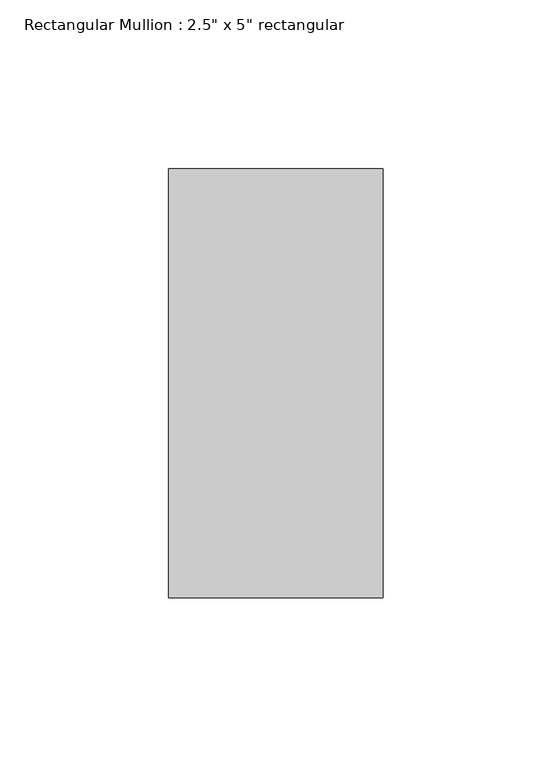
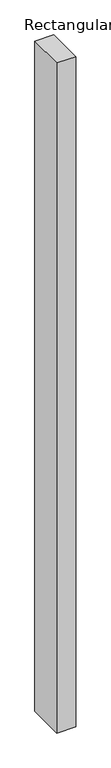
"""IFC4 building model written with IfcOpenShell, lengths in millimetres: member geometry."""

from ifc_helpers import new_model, si_unit, frame, origin, place, context, project, spatial, polyline, outline, extrude, source, transform, mapped, element, save


def member_e08b85bd(model_context):
    return source(origin(), model_context, "Body", "SweptSolid", [
        extrude(outline(polyline([(0.0, 63.5), (0.0, -63.5), (-63.5, -63.5), (-63.5, 63.5), (0.0, 63.5)])), frame((0.0, 0.0, -2382.1318173), z_axis=(0.0, 0.0, 1.0), x_axis=(1.0, 0.0, 0.0)), (0.0, 0.0, 1.0), 2382.1318173),
    ])


if __name__ == "__main__":
    model = new_model("IFC4")
    model_context = context("Model", 3, world=origin())
    ifc_project = project(units=[si_unit("LENGTHUNIT", "METRE", prefix="MILLI")], contexts=[model_context])
    site = spatial("IfcSite", under=ifc_project)
    building = spatial("IfcBuilding", under=site)
    placement = place(None, origin())
    member_shape = member_e08b85bd(model_context)
    element("IfcMember", 1, ObjectType="Rectangular Mullion : 2.5\" x 5\" rectangular", at=placement, inside=building, context=model_context, shape_type="MappedRepresentation", body=[
        mapped(member_shape, transform((0.0, 0.0, 0.0), x_axis=(1.0, 0.0, 0.0), y_axis=(0.0, 1.0, 0.0), z_axis=(0.0, 0.0, 1.0))),
    ])
    save(model, "model.ifc")
